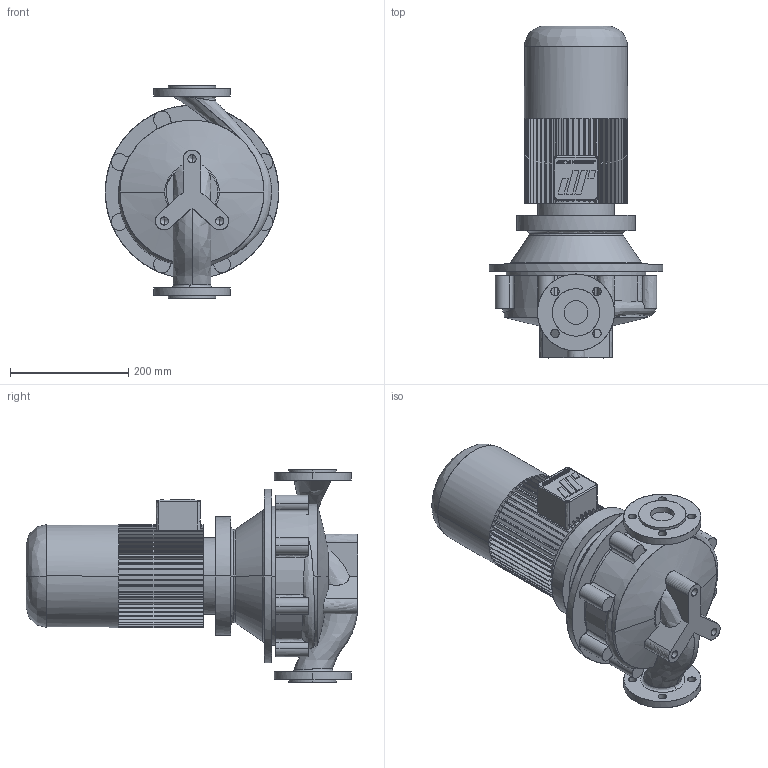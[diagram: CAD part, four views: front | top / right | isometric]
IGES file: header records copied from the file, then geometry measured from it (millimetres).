
Start section: CombiLine
Global section: file name: CLB_40-200_IEC90L.igs; native system:  By UGS Corp.; preprocessor: XPlus GENERIC/IGES 3.0; author: Stageplaats; organization: Johnson Pump Water B.V.; date: 20070712.151402; units: millimetre
Bounding box: 293 x 560.5 x 360 mm (x, y, z)
Surface area: 730878.1 mm2 (no closed solid volume)
Topology: 0 solids, 0 shells, 542 faces, 3312 edges, 3306 vertices
Faces by surface type: bspline 542
